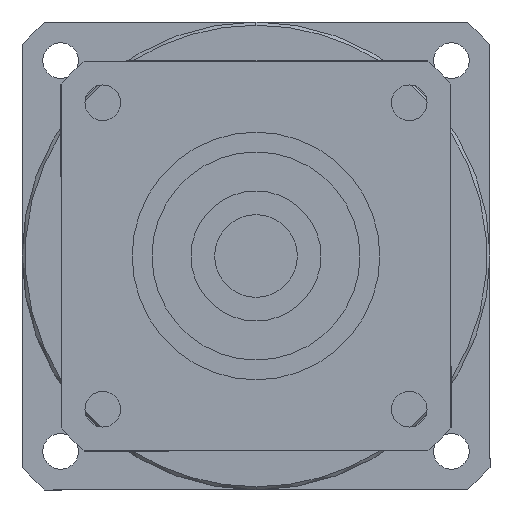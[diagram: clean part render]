
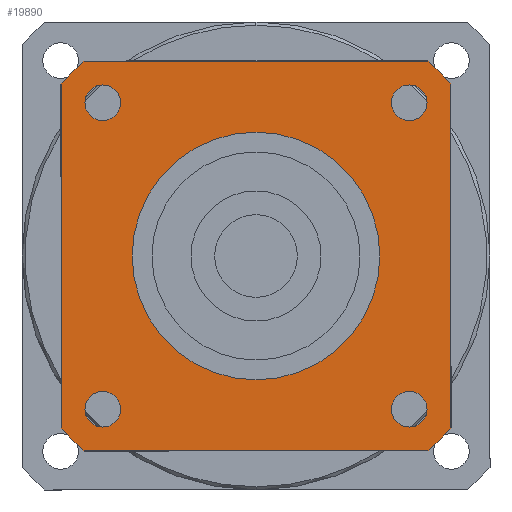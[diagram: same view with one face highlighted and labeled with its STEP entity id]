
A CAD part, left-side view. The second image highlights one B-rep face of the part: STEP entity #19890.
In plain terms, the highlighted planar face has unit normal (-1, 0, 0) as drawn and (0, 0, -1) by its records, which use the part's own axes.
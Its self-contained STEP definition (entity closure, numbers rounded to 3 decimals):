
#15410=CARTESIAN_POINT('',(30.,-26.458,-91.));
#15420=VERTEX_POINT('',#15410);
#15600=CARTESIAN_POINT('',(30.,26.458,-91.));
#15610=VERTEX_POINT('',#15600);
#15640=CARTESIAN_POINT('',(30.,-30.,-91.));
#15650=DIRECTION('',(0.,1.,0.));
#15660=VECTOR('',#15650,1000.);
#15670=LINE('',#15640,#15660);
#15680=EDGE_CURVE('',#15420,#15610,#15670,.T.);
#15840=CARTESIAN_POINT('',(26.458,30.,-91.));
#15850=VERTEX_POINT('',#15840);
#15880=CARTESIAN_POINT('',(0.,0.,
-91.));
#15890=DIRECTION('',(0.,0.,1.));
#15900=DIRECTION('',(0.,-1.,0.));
#15910=AXIS2_PLACEMENT_3D('',#15880,#15890,#15900);
#15920=CIRCLE('',#15910,40.);
#15930=EDGE_CURVE('',#15610,#15850,#15920,.T.);
#18140=CARTESIAN_POINT('',(20.821,23.571,-91.));
#18150=VERTEX_POINT('',#18140);
#18310=CARTESIAN_POINT('',(26.321,23.571,-91.));
#18320=VERTEX_POINT('',#18310);
#18350=CARTESIAN_POINT('',(23.571,23.571,-91.));
#18360=DIRECTION('',(0.,0.,-1.));
#18370=DIRECTION('',(0.,1.,0.));
#18380=AXIS2_PLACEMENT_3D('',#18350,#18360,#18370);
#18390=CIRCLE('',#18380,2.75);
#18400=CARTESIAN_POINT('',(23.571,26.321,-91.));
#18410=VERTEX_POINT('',#18400);
#18420=EDGE_CURVE('',#18410,#18320,#18390,.T.);
#18440=EDGE_CURVE('',#18150,#18410,#18390,.T.);
#18490=CARTESIAN_POINT('',(-30.,30.,-91.));
#18500=DIRECTION('',(0.,0.,1.));
#18510=DIRECTION('',(-1.,0.,0.));
#18520=AXIS2_PLACEMENT_3D('',#18490,#18500,#18510);
#18530=PLANE('',#18520);
#18540=CARTESIAN_POINT('',(23.571,-23.571,-91.));
#18550=DIRECTION('',(0.,0.,-1.));
#18560=DIRECTION('',(1.,0.,0.));
#18570=AXIS2_PLACEMENT_3D('',#18540,#18550,#18560);
#18580=CIRCLE('',#18570,2.75);
#18590=CARTESIAN_POINT('',(26.321,-23.571,-91.));
#18600=VERTEX_POINT('',#18590);
#18610=CARTESIAN_POINT('',(23.571,-26.321,-91.));
#18620=VERTEX_POINT('',#18610);
#18630=EDGE_CURVE('',#18600,#18620,#18580,.T.);
#18640=ORIENTED_EDGE('',*,*,#18630,.F.);
#18650=CARTESIAN_POINT('',(23.571,-20.821,-91.));
#18660=VERTEX_POINT('',#18650);
#18670=EDGE_CURVE('',#18620,#18660,#18580,.T.);
#18680=ORIENTED_EDGE('',*,*,#18670,.F.);
#18690=EDGE_CURVE('',#18660,#18600,#18580,.T.);
#18700=ORIENTED_EDGE('',*,*,#18690,.F.);
#18710=EDGE_LOOP('',(#18700,#18680,#18640));
#18720=FACE_BOUND('',#18710,.T.);
#18730=ORIENTED_EDGE('',*,*,#18420,.F.);
#18740=EDGE_CURVE('',#18320,#18150,#18390,.T.);
#18750=ORIENTED_EDGE('',*,*,#18740,.F.);
#18760=ORIENTED_EDGE('',*,*,#18440,.F.);
#18770=EDGE_LOOP('',(#18760,#18750,#18730));
#18780=FACE_BOUND('',#18770,.T.);
#18790=CARTESIAN_POINT('',(-23.571,23.571,-91.));
#18800=DIRECTION('',(0.,0.,-1.));
#18810=DIRECTION('',(-1.,0.,0.));
#18820=AXIS2_PLACEMENT_3D('',#18790,#18800,#18810);
#18830=CIRCLE('',#18820,2.75);
#18840=CARTESIAN_POINT('',(-26.321,23.571,-91.));
#18850=VERTEX_POINT('',#18840);
#18860=CARTESIAN_POINT('',(-23.571,26.321,-91.));
#18870=VERTEX_POINT('',#18860);
#18880=EDGE_CURVE('',#18850,#18870,#18830,.T.);
#18890=ORIENTED_EDGE('',*,*,#18880,.F.);
#18900=CARTESIAN_POINT('',(-23.571,20.821,-91.));
#18910=VERTEX_POINT('',#18900);
#18920=EDGE_CURVE('',#18870,#18910,#18830,.T.);
#18930=ORIENTED_EDGE('',*,*,#18920,.F.);
#18940=EDGE_CURVE('',#18910,#18850,#18830,.T.);
#18950=ORIENTED_EDGE('',*,*,#18940,.F.);
#18960=EDGE_LOOP('',(#18950,#18930,#18890));
#18970=FACE_BOUND('',#18960,.T.);
#18980=CARTESIAN_POINT('',(-23.571,-23.571,-91.));
#18990=DIRECTION('',(0.,0.,-1.));
#19000=DIRECTION('',(0.,-1.,0.));
#19010=AXIS2_PLACEMENT_3D('',#18980,#18990,#19000);
#19020=CIRCLE('',#19010,2.75);
#19030=CARTESIAN_POINT('',(-23.571,-26.321,-91.));
#19040=VERTEX_POINT('',#19030);
#19050=CARTESIAN_POINT('',(-26.321,-23.571,-91.));
#19060=VERTEX_POINT('',#19050);
#19070=EDGE_CURVE('',#19040,#19060,#19020,.T.);
#19080=ORIENTED_EDGE('',*,*,#19070,.F.);
#19090=CARTESIAN_POINT('',(-20.821,-23.571,-91.));
#19100=VERTEX_POINT('',#19090);
#19110=EDGE_CURVE('',#19060,#19100,#19020,.T.);
#19120=ORIENTED_EDGE('',*,*,#19110,.F.);
#19130=EDGE_CURVE('',#19100,#19040,#19020,.T.);
#19140=ORIENTED_EDGE('',*,*,#19130,.F.);
#19150=EDGE_LOOP('',(#19140,#19120,#19080));
#19160=FACE_BOUND('',#19150,.T.);
#19170=CARTESIAN_POINT('',(0.,0.,
-91.));
#19180=DIRECTION('',(0.,0.,1.));
#19190=DIRECTION('',(0.,-1.,0.));
#19200=AXIS2_PLACEMENT_3D('',#19170,#19180,#19190);
#19210=CIRCLE('',#19200,40.);
#19220=CARTESIAN_POINT('',(-30.,-26.458,-91.));
#19230=VERTEX_POINT('',#19220);
#19240=CARTESIAN_POINT('',(-26.458,-30.,-91.));
#19250=VERTEX_POINT('',#19240);
#19260=EDGE_CURVE('',#19230,#19250,#19210,.T.);
#19270=ORIENTED_EDGE('',*,*,#19260,.F.);
#19280=CARTESIAN_POINT('',(-30.,-30.,-91.));
#19290=DIRECTION('',(1.,0.,0.));
#19300=VECTOR('',#19290,1000.);
#19310=LINE('',#19280,#19300);
#19320=CARTESIAN_POINT('',(26.458,-30.,-91.));
#19330=VERTEX_POINT('',#19320);
#19340=EDGE_CURVE('',#19250,#19330,#19310,.T.);
#19350=ORIENTED_EDGE('',*,*,#19340,.F.);
#19360=CARTESIAN_POINT('',(0.,0.,
-91.));
#19370=DIRECTION('',(0.,0.,1.));
#19380=DIRECTION('',(0.,-1.,0.));
#19390=AXIS2_PLACEMENT_3D('',#19360,#19370,#19380);
#19400=CIRCLE('',#19390,40.);
#19410=EDGE_CURVE('',#19330,#15420,#19400,.T.);
#19420=ORIENTED_EDGE('',*,*,#19410,.F.);
#19430=ORIENTED_EDGE('',*,*,#15680,.F.);
#19440=ORIENTED_EDGE('',*,*,#15930,.F.);
#19450=CARTESIAN_POINT('',(30.,30.,-91.));
#19460=DIRECTION('',(-1.,0.,0.));
#19470=VECTOR('',#19460,1000.);
#19480=LINE('',#19450,#19470);
#19490=CARTESIAN_POINT('',(-26.458,30.,-91.));
#19500=VERTEX_POINT('',#19490);
#19510=EDGE_CURVE('',#15850,#19500,#19480,.T.);
#19520=ORIENTED_EDGE('',*,*,#19510,.F.);
#19530=CARTESIAN_POINT('',(0.,0.,
-91.));
#19540=DIRECTION('',(0.,0.,1.));
#19550=DIRECTION('',(0.,-1.,0.));
#19560=AXIS2_PLACEMENT_3D('',#19530,#19540,#19550);
#19570=CIRCLE('',#19560,40.);
#19580=CARTESIAN_POINT('',(-30.,26.458,-91.));
#19590=VERTEX_POINT('',#19580);
#19600=EDGE_CURVE('',#19500,#19590,#19570,.T.);
#19610=ORIENTED_EDGE('',*,*,#19600,.F.);
#19620=CARTESIAN_POINT('',(-30.,30.,-91.));
#19630=DIRECTION('',(0.,-1.,0.));
#19640=VECTOR('',#19630,1000.);
#19650=LINE('',#19620,#19640);
#19660=EDGE_CURVE('',#19590,#19230,#19650,.T.);
#19670=ORIENTED_EDGE('',*,*,#19660,.F.);
#19680=EDGE_LOOP('',(#19670,#19610,#19520,#19440,#19430,#19420,#19350,
#19270));
#19690=FACE_OUTER_BOUND('',#19680,.T.);
#19700=CARTESIAN_POINT('',(0.,0.,
-91.));
#19710=DIRECTION('',(0.,0.,1.));
#19720=DIRECTION('',(0.,-1.,0.));
#19730=AXIS2_PLACEMENT_3D('',#19700,#19710,#19720);
#19740=CIRCLE('',#19730,19.05);
#19750=CARTESIAN_POINT('',(19.05,0.,-91.));
#19760=VERTEX_POINT('',#19750);
#19770=CARTESIAN_POINT('',(-19.05,0.,-91.));
#19780=VERTEX_POINT('',#19770);
#19790=EDGE_CURVE('',#19760,#19780,#19740,.T.);
#19800=ORIENTED_EDGE('',*,*,#19790,.T.);
#19810=CARTESIAN_POINT('',(0.,-19.05,-91.));
#19820=VERTEX_POINT('',#19810);
#19830=EDGE_CURVE('',#19820,#19760,#19740,.T.);
#19840=ORIENTED_EDGE('',*,*,#19830,.T.);
#19850=EDGE_CURVE('',#19780,#19820,#19740,.T.);
#19860=ORIENTED_EDGE('',*,*,#19850,.T.);
#19870=EDGE_LOOP('',(#19860,#19840,#19800));
#19880=FACE_BOUND('',#19870,.T.);
#19890=ADVANCED_FACE('',(#18720,#18780,#18970,#19160,#19690,#19880),
#18530,.F.);
